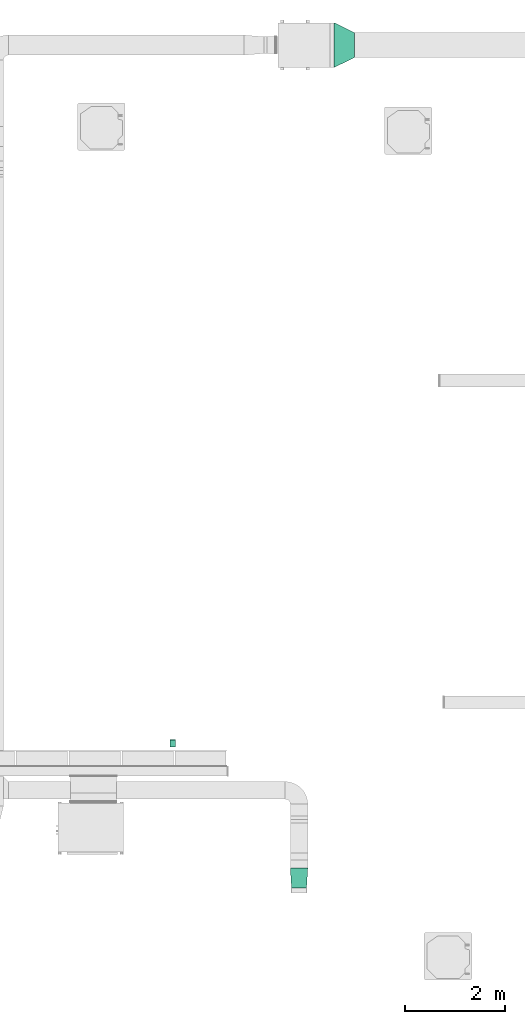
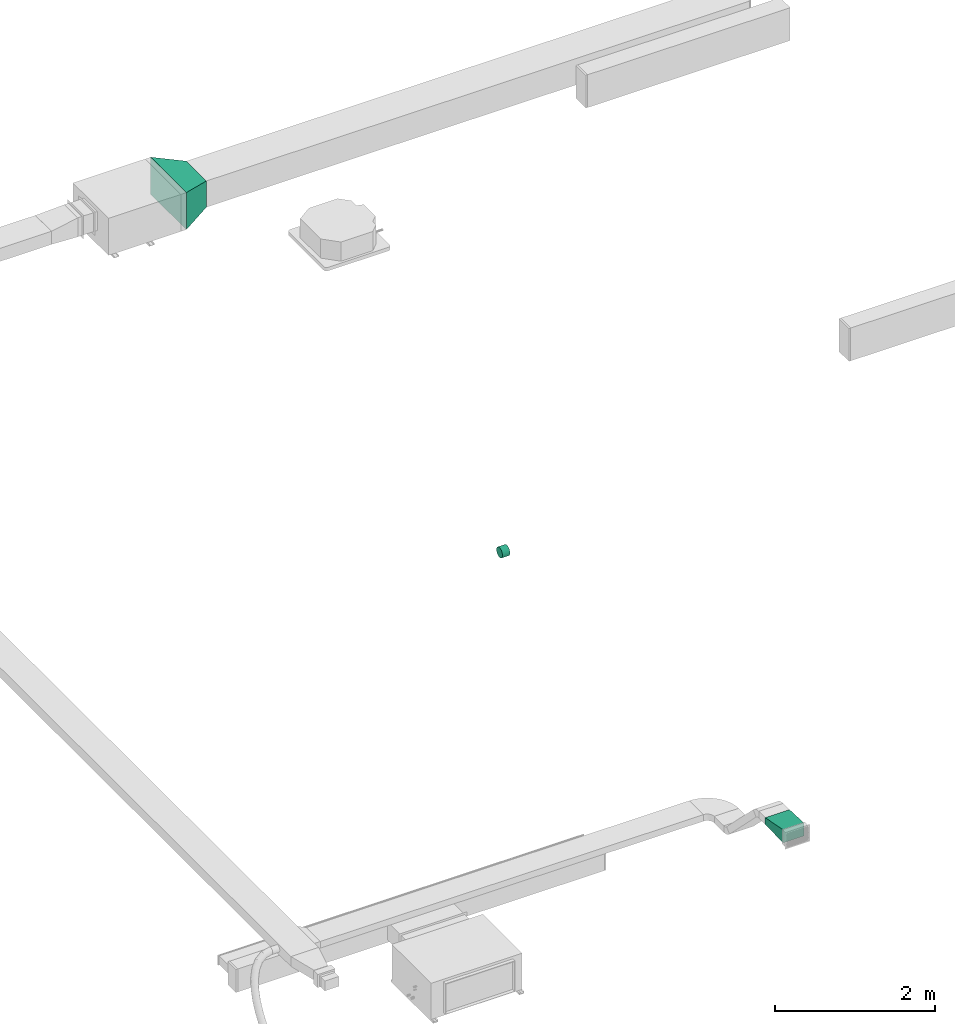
# One storey, part 10 of 15: 3 flow fittings.
"""IFC2X3 building model written with IfcOpenShell, lengths in millimetres."""

from ifc_helpers import new_model, entity, si_unit, converted_unit, derived_unit, direction, frame, origin, place, context, subcontext, project, spatial, faceted_brep, source, transform, mapped, material, type_object, type_shapes, element, save


model = new_model("IFC2X3")

# Units and contexts
model_context = context("Model", 3, precision=0.01, world=origin(), true_north=direction((6.123233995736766e-17, 1.0)))
body_context = subcontext(model_context, "Body", "Model", "MODEL_VIEW")
ifc_project = project(units=[si_unit("LENGTHUNIT", "METRE", prefix="MILLI"), converted_unit("PLANEANGLEUNIT", "DEGREE", entity("IfcPlaneAngleMeasure", 0.017453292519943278), si_unit("PLANEANGLEUNIT", "RADIAN"), dimensions=[0, 0, 0, 0, 0, 0, 0]), si_unit("AREAUNIT", "SQUARE_METRE"), derived_unit("THERMALTRANSMITTANCEUNIT", [(si_unit("MASSUNIT", "GRAM", prefix="KILO"), 1), (si_unit("THERMODYNAMICTEMPERATUREUNIT", "KELVIN"), -1), (si_unit("TIMEUNIT", "SECOND"), -3)])], contexts=[model_context])

# Site, building, storey
site_placement = place(None, origin())
site = spatial("IfcSite", under=ifc_project, at=site_placement, Name="Default", CompositionType="ELEMENT")
building_placement = place(site_placement, origin())
building = spatial("IfcBuilding", under=site, at=building_placement, Name="Praça Pedro II, 1301 - Centro (Sul), Teresina - PI, 64001-100", CompositionType="ELEMENT")
storey_placement = place(building_placement, frame((0.0, 0.0, 3020.0)))
storey = spatial("IfcBuildingStorey", under=building, at=storey_placement, Name="1PAV", CompositionType="ELEMENT", Elevation=3020.0)

# Flow fittings
ifc_material = material(Name="<Unnamed>")
duct_fitting_type_1 = type_object("IfcDuctFittingType", Name="M_Rectangular Transition - L:400 mm (L)", PredefinedType="NOTDEFINED", material=ifc_material)
shared_shape_1 = source(origin(), body_context, "Body", "Brep", [
    faceted_brep([(400.0, -150.0, 100.0), (400.0, -150.0, -100.0), (400.0, 150.0, -100.0), (400.0, 150.0, 100.0), (0.0, -175.0, 50.0), (0.0, 175.0, 50.0), (0.0, 175.0, -50.0), (0.0, -175.0, -50.0)], [[[0, 1, 2, 3]], [[4, 5, 6, 7]], [[4, 7, 1, 0]], [[7, 6, 2, 1]], [[6, 5, 3, 2]], [[5, 4, 0, 3]]]),
])
type_shapes(duct_fitting_type_1, [shared_shape_1])
flow_fitting_1_placement = place(storey_placement, frame((12484.101734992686, -67963.23278131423, 2250.0), z_axis=(0.0, 0.0, 1.0), x_axis=(0.0, -1.0, 0.0)))
element("IfcFlowFitting", 1, at=flow_fitting_1_placement, inside=storey, type_object=duct_fitting_type_1, material=ifc_material, Name="M_Rectangular Transition - L:400 mm (L)", ObjectType="M_Rectangular Transition - L:400 mm (L)", context=body_context, shape_type="MappedRepresentation", body=[
    mapped(shared_shape_1, transform((0.0, 0.0, 0.0), scale=1.0)),
])
duct_fitting_type_2 = type_object("IfcDuctFittingType", Name="M_Encaixe de duto redondo:Padrão", PredefinedType="NOTDEFINED", material=ifc_material)
shared_shape_2 = source(origin(), body_context, "Body", "Brep", [
    faceted_brep([(101.6000000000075, 0.0, -75.0), (101.60000000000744, 19.41142838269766, -72.44443697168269), (101.6000000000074, 37.50000000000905, -64.95190528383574), (101.60000000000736, 53.033008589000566, -53.03300858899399), (101.60000000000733, 64.95190528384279, -37.500000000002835), (101.60000000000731, 72.4444369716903, -19.411428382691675), (101.60000000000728, 75.0, 0.0), (101.60000000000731, 72.4444369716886, 19.41142838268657), (101.60000000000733, 64.95190528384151, 37.49999999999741), (101.60000000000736, 53.03300858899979, 53.03300858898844), (101.6000000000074, 37.500000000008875, 64.95190528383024), (101.60000000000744, 19.4114283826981, 72.44443697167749), (101.6000000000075, 0.0, 75.0), (101.60000000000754, -19.411428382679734, 72.44443697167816), (101.6000000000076, -37.49999999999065, 64.95190528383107), (101.60000000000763, -53.033008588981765, 53.03300858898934), (101.60000000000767, -64.95190528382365, 37.49999999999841), (101.60000000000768, -72.44443697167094, 19.411428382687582), (101.6000000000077, -75.0, 0.0), (101.60000000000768, -72.44443697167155, -19.411428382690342), (101.60000000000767, -64.95190528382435, -37.500000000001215), (101.60000000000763, -53.03300858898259, -53.03300858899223), (101.6000000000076, -37.499999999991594, -64.95190528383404), (101.60000000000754, -19.411428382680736, -72.44443697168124), (0.0, 0.0, 75.0), (-6.095999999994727, 0.0, 75.0), (-6.095999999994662, -19.411428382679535, 72.44443697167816), (0.0, -19.411428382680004, 72.44443697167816), (-6.095999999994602, -37.49999999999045, 64.95190528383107), (0.0, -37.49999999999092, 64.95190528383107), (-6.09599999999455, -53.03300858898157, 53.03300858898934), (0.0, -53.03300858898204, 53.03300858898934), (0.0, -64.95190528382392, 37.49999999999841), (-6.09599999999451, -64.95190528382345, 37.49999999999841), (-6.0959999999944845, -72.44443697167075, 19.411428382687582), (0.0, -72.44443697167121, 19.411428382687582), (-6.095999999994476, -75.0, 0.0), (0.0, -75.0, 0.0), (0.0, -64.95190528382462, -37.500000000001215), (0.0, -72.44443697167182, -19.411428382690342), (-6.0959999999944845, -72.44443697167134, -19.411428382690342), (-6.09599999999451, -64.95190528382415, -37.500000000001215), (-6.09599999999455, -53.03300858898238, -53.03300858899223), (0.0, -53.03300858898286, -53.03300858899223), (0.0, -37.49999999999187, -64.95190528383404), (-6.095999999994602, -37.4999999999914, -64.95190528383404), (-6.095999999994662, -19.41142838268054, -72.44443697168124), (0.0, -19.411428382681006, -72.44443697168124), (-6.095999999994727, 0.0, -75.0), (0.0, 0.0, -75.0), (-6.095999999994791, 19.41142838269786, -72.44443697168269), (0.0, 19.41142838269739, -72.44443697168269), (-6.095999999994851, 37.50000000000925, -64.95190528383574), (0.0, 37.50000000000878, -64.95190528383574), (-6.095999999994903, 53.03300858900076, -53.03300858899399), (0.0, 53.033008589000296, -53.03300858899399), (0.0, 64.95190528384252, -37.500000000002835), (-6.095999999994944, 64.95190528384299, -37.500000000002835), (-6.0959999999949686, 72.4444369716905, -19.411428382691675), (0.0, 72.44443697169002, -19.411428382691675), (-6.095999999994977, 75.0, 0.0), (0.0, 75.0, 0.0), (-6.0959999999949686, 72.44443697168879, 19.41142838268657), (0.0, 72.44443697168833, 19.41142838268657), (-6.095999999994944, 64.9519052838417, 37.49999999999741), (0.0, 64.95190528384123, 37.49999999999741), (-6.095999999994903, 53.033008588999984, 53.03300858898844), (0.0, 53.033008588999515, 53.03300858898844), (0.0, 37.500000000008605, 64.95190528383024), (-6.095999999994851, 37.500000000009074, 64.95190528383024), (-6.095999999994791, 19.4114283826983, 72.44443697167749), (0.0, 19.41142838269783, 72.44443697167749)], [[[0, 1, 2, 3, 4, 5, 6, 7, 8, 9, 10, 11, 12, 13, 14, 15, 16, 17, 18, 19, 20, 21, 22, 23]], [[13, 12, 24, 25, 26, 27]], [[14, 13, 27, 26, 28, 29]], [[29, 28, 30, 31, 15, 14]], [[17, 16, 32, 33, 34, 35]], [[18, 17, 35, 34, 36, 37]], [[31, 30, 33, 32, 16, 15]], [[38, 20, 19, 39, 40, 41]], [[37, 36, 40, 39, 19, 18]], [[20, 38, 41, 42, 43, 21]], [[23, 22, 44, 45, 46, 47]], [[0, 23, 47, 46, 48, 49]], [[43, 42, 45, 44, 22, 21]], [[1, 0, 49, 48, 50, 51]], [[2, 1, 51, 50, 52, 53]], [[53, 52, 54, 55, 3, 2]], [[5, 4, 56, 57, 58, 59]], [[6, 5, 59, 58, 60, 61]], [[55, 54, 57, 56, 4, 3]], [[7, 6, 61, 60, 62, 63]], [[8, 7, 63, 62, 64, 65]], [[65, 64, 66, 67, 9, 8]], [[11, 10, 68, 69, 70, 71]], [[12, 11, 71, 70, 25, 24]], [[67, 66, 69, 68, 10, 9]], [[46, 45, 42, 41, 40, 36, 34, 33, 30, 28, 26, 25, 70, 69, 66, 64, 62, 60, 58, 57, 54, 52, 50, 48]]]),
])
type_shapes(duct_fitting_type_2, [shared_shape_2])
flow_fitting_2_placement = place(storey_placement, frame((10017.511122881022, -65482.53975107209, 5670.0), z_axis=(0.0, 0.0, -1.0), x_axis=(-1.0, 0.0, 0.0)))
element("IfcFlowFitting", 2, at=flow_fitting_2_placement, inside=storey, type_object=duct_fitting_type_2, material=ifc_material, Name="M_Encaixe de duto redondo:Padrão", ObjectType="M_Encaixe de duto redondo:Padrão", context=body_context, shape_type="MappedRepresentation", body=[
    mapped(shared_shape_2, transform((0.0, 0.0, 0.0), scale=1.0)),
])
duct_fitting_type_3 = type_object("IfcDuctFittingType", Name="M_Rectangular Transition - L:400 mm (L)", PredefinedType="NOTDEFINED", material=ifc_material)
shared_shape_3 = source(origin(), body_context, "Body", "Brep", [
    faceted_brep([(400.0, -250.0, 200.0), (400.0, -250.0, -200.0), (400.0, 250.0, -200.0), (400.0, 250.0, 200.0), (0.0, -445.0, 282.4999999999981), (0.0, 445.0, 282.4999999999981), (0.0, 445.0, -282.5000000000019), (0.0, -445.0, -282.5000000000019)], [[[0, 1, 2, 3]], [[4, 5, 6, 7]], [[4, 7, 1, 0]], [[7, 6, 2, 1]], [[6, 5, 3, 2]], [[5, 4, 0, 3]]]),
])
type_shapes(duct_fitting_type_3, [shared_shape_3])
flow_fitting_3_placement = place(storey_placement, frame((13185.71177406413, -51563.17265781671, 1550.4435676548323)))
element("IfcFlowFitting", 3, at=flow_fitting_3_placement, inside=storey, type_object=duct_fitting_type_3, material=ifc_material, Name="M_Rectangular Transition - L:400 mm (L)", ObjectType="M_Rectangular Transition - L:400 mm (L)", context=body_context, shape_type="MappedRepresentation", body=[
    mapped(shared_shape_3, transform((0.0, 0.0, 0.0), scale=1.0)),
])

save(model, "model.ifc")
